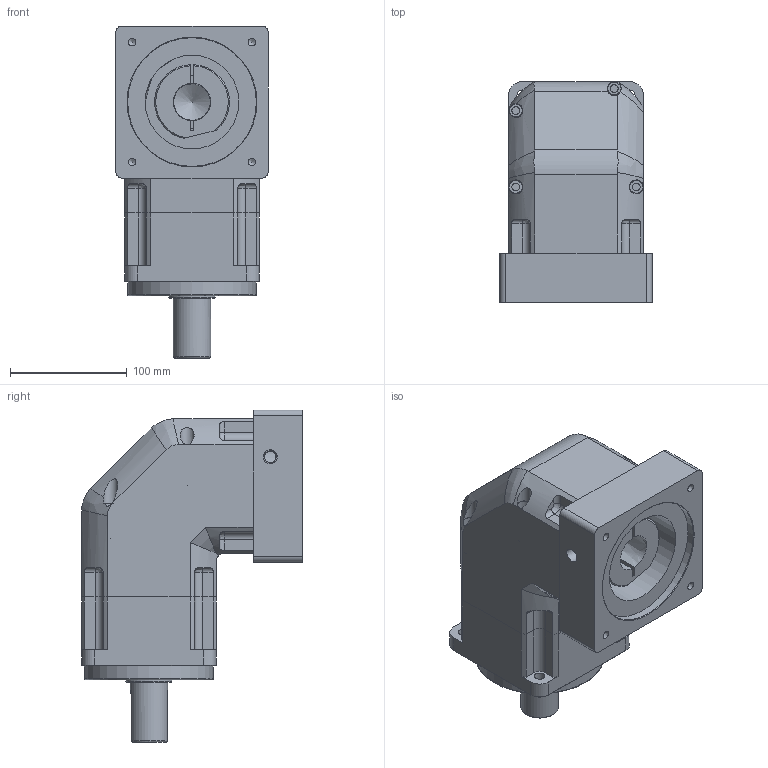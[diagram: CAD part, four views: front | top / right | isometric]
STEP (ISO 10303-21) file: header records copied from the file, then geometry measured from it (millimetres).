
FILE_DESCRIPTION((''),'2;1');
FILE_NAME('C:\Documents and Settings\nagyu\바탕 화면\유성감속기 3D\SPL115\SPL115003~020KA.stp','2009-10-27T09:44:04',('nagyu'),(''),'Autodesk Inventor 2010','Autodesk Inventor 2010','');
FILE_SCHEMA(('AUTOMOTIVE_DESIGN { 1 0 10303 214 1 1 1 1 }'));
Length unit declared in the file: millimetre
Products named in the file (4): SPL115 1단; SPI115 OUT; SPL115 GEARCASE; 115각 INPUT ADAPTER FLANGE
Assembly tree (3 placements, depth 2):
  SPL115 1단
    SPI115 OUT
    SPL115 GEARCASE
    115각 INPUT ADAPTER FLANGE
Bounding box: 130 x 188.8 x 283.8 mm (x, y, z)
Volume: 3065187.2 mm3; surface area: 259842.6 mm2
Topology: 4 solids, 4 shells, 228 faces, 597 edges, 389 vertices
Faces by surface type: plane 91, cylinder 84, bspline 39, cone 11, torus 3
Full cylindrical faces by diameter (mm): 6.6 x4, 11 x4, 32 x1, 39.5 x1, 45 x1, 72 x1, 90 x2, 92 x1, 100 x1, 110 x1
Entity records: 8021 total; most frequent: CARTESIAN_POINT 2585, DIRECTION 1056, ORIENTED_EDGE 1056, EDGE_CURVE 528, AXIS2_PLACEMENT_3D 403, VERTEX_POINT 365, EDGE_LOOP 309, VECTOR 250
